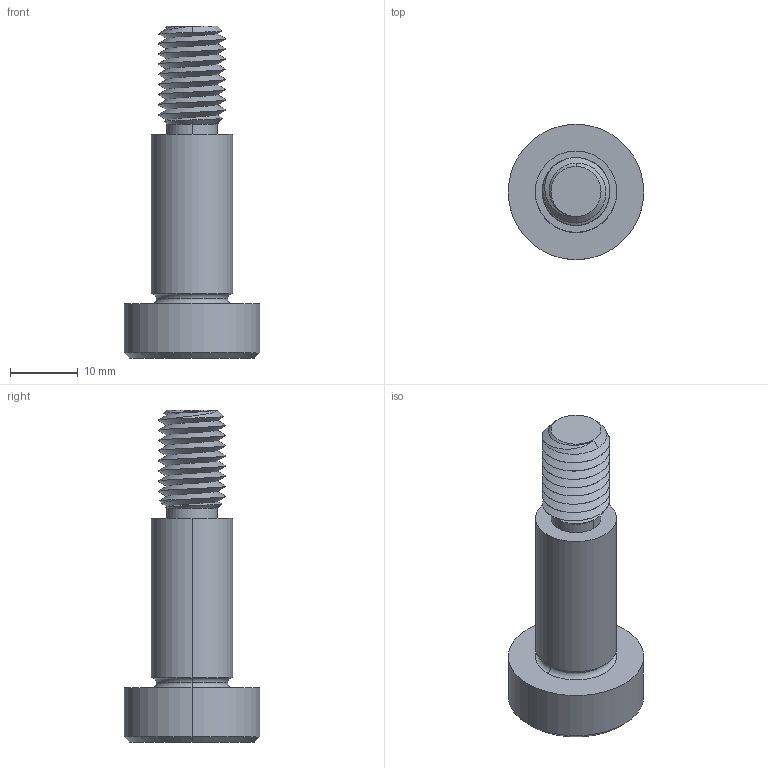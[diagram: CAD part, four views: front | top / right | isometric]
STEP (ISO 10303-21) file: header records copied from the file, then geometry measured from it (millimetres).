
FILE_DESCRIPTION (( 'STEP AP203' ), '1' );
FILE_NAME ('P0130.120-025-B2.step', '2021-11-09T22:04:43', ( '' ), ( '' ), 'SwSTEP 2.0', 'SolidWorks 2019', '' );
FILE_SCHEMA (( 'CONFIG_CONTROL_DESIGN' ));
Length unit declared in the file: millimetre
Products named in the file (1): P0130.120-025-B2
Bounding box: 20 x 20 x 49 mm (x, y, z)
Volume: 6005.3 mm3; surface area: 2999.7 mm2
Topology: 1 solids, 1 shells, 60 faces, 142 edges, 85 vertices
Faces by surface type: cylinder 23, plane 16, cone 15, torus 4, bspline 2
Entity records: 3534 total; most frequent: CARTESIAN_POINT 2187, ORIENTED_EDGE 280, DIRECTION 247, EDGE_CURVE 140, AXIS2_PLACEMENT_3D 99, VERTEX_POINT 85, EDGE_LOOP 63, FACE_OUTER_BOUND 60
